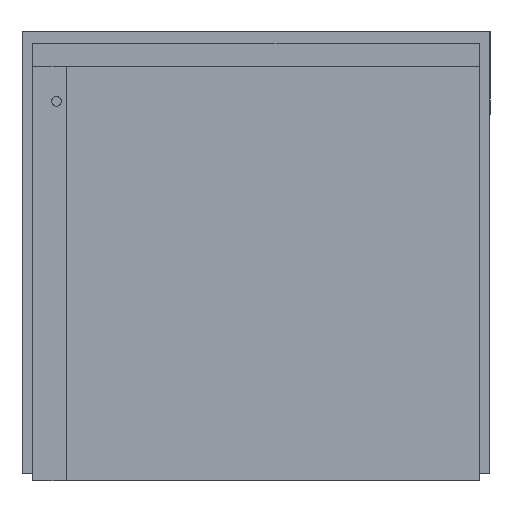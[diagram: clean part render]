
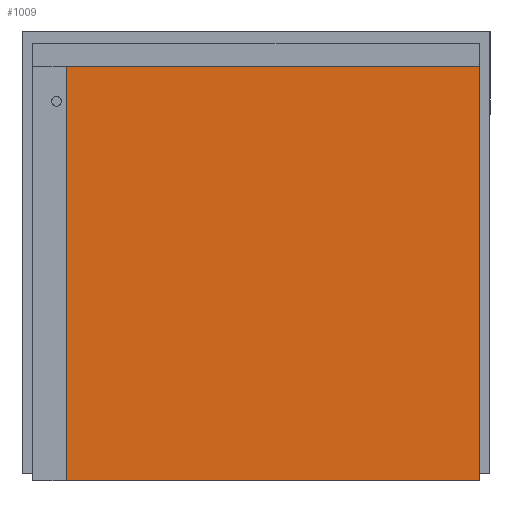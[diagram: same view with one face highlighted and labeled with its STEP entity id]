
A CAD part, left-side view. The second image highlights one B-rep face of the part: STEP entity #1009.
In plain terms, the highlighted free-form (B-spline) face has degree [1, 1] with [2, 2] control points.
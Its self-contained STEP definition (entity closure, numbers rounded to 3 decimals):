
#1009=ADVANCED_FACE('',(#1301),#3747,.T.);
#1301=FACE_OUTER_BOUND('',#1594,.T.);
#1594=EDGE_LOOP('',(#2372,#2373,#2374,#2375));
#2372=ORIENTED_EDGE('',*,*,#3089,.F.);
#2373=ORIENTED_EDGE('',*,*,#3090,.T.);
#2374=ORIENTED_EDGE('',*,*,#3091,.F.);
#2375=ORIENTED_EDGE('',*,*,#3092,.F.);
#3089=EDGE_CURVE('',#3495,#3496,#3997,.T.);
#3090=EDGE_CURVE('',#3495,#3497,#3998,.T.);
#3091=EDGE_CURVE('',#3498,#3497,#3999,.T.);
#3092=EDGE_CURVE('',#3496,#3498,#4000,.T.);
#3495=VERTEX_POINT('',#91528);
#3496=VERTEX_POINT('',#91529);
#3497=VERTEX_POINT('',#91530);
#3498=VERTEX_POINT('',#91531);
#3747=B_SPLINE_SURFACE_WITH_KNOTS('',1,1,((#91452,#91453),(#91454,#91455)),
.UNSPECIFIED.,.F.,.F.,.F.,(2,2),(2,2),(0.,1.),(0.074,1.),.UNSPECIFIED.);
#3997=B_SPLINE_CURVE_WITH_KNOTS('',1,(#91356,#91357),.UNSPECIFIED.,.F.,.F.,
(2,2),(0.,0.929),.UNSPECIFIED.);
#3998=B_SPLINE_CURVE_WITH_KNOTS('',1,(#91358,#91359),.UNSPECIFIED.,.F.,.F.,
(2,2),(0.074,1.),.UNSPECIFIED.);
#3999=B_SPLINE_CURVE_WITH_KNOTS('',1,(#91360,#91361),.UNSPECIFIED.,.F.,.F.,
(2,2),(0.,1.),.UNSPECIFIED.);
#4000=B_SPLINE_CURVE_WITH_KNOTS('',1,(#91362,#91363),.UNSPECIFIED.,.F.,.F.,
(2,2),(0.074,1.),.UNSPECIFIED.);
#91356=CARTESIAN_POINT('',(-596.8,307.201,0.002));
#91357=CARTESIAN_POINT('',(-596.8,307.201,670.403));
#91358=CARTESIAN_POINT('',(-596.8,307.201,0.));
#91359=CARTESIAN_POINT('',(-596.8,-360.87,0.));
#91360=CARTESIAN_POINT('',(-596.8,-360.87,670.403));
#91361=CARTESIAN_POINT('',(-596.8,-360.87,0.));
#91362=CARTESIAN_POINT('',(-596.8,307.201,670.403));
#91363=CARTESIAN_POINT('',(-596.8,-360.87,670.403));
#91452=CARTESIAN_POINT('',(-596.8,307.201,670.403));
#91453=CARTESIAN_POINT('',(-596.8,-360.87,670.403));
#91454=CARTESIAN_POINT('',(-596.8,307.201,0.));
#91455=CARTESIAN_POINT('',(-596.8,-360.87,0.));
#91528=CARTESIAN_POINT('',(-596.8,307.201,0.));
#91529=CARTESIAN_POINT('',(-596.8,307.201,670.403));
#91530=CARTESIAN_POINT('',(-596.8,-360.87,0.));
#91531=CARTESIAN_POINT('',(-596.8,-360.87,670.403));
